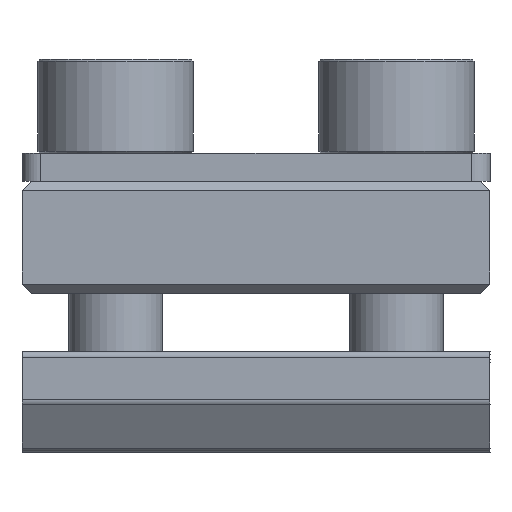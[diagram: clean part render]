
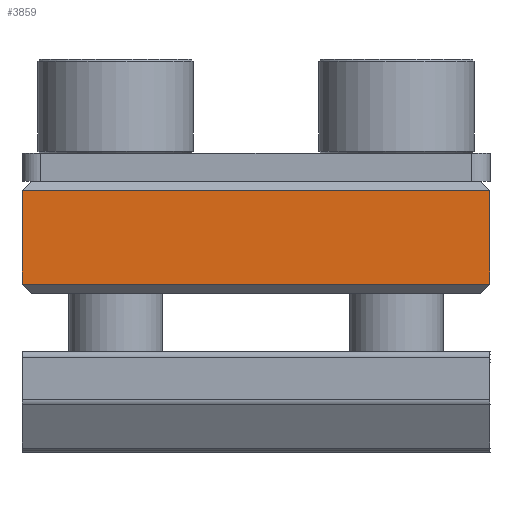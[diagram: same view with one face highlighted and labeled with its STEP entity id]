
A CAD part, front view. The second image highlights one B-rep face of the part: STEP entity #3859.
In plain terms, the highlighted planar face has unit normal (0, -1, 0).
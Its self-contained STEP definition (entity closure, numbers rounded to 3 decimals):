
#5 = CARTESIAN_POINT ( 'NONE',  ( -12.5, -37.5, 6. ) ) ;
#58 = VERTEX_POINT ( 'NONE', #434 ) ;
#146 = LINE ( 'NONE', #1970, #321 ) ;
#148 = CARTESIAN_POINT ( 'NONE',  ( 12.5, -37.5, 5.5 ) ) ;
#299 = DIRECTION ( 'NONE',  ( 1., 0., 0. ) ) ;
#321 = VECTOR ( 'NONE', #2667, 1000. ) ;
#434 = CARTESIAN_POINT ( 'NONE',  ( -12.5, -37.5, 5.5 ) ) ;
#478 = ORIENTED_EDGE ( 'NONE', *, *, #2975, .T. ) ;
#598 = DIRECTION ( 'NONE',  ( 0., -1., 0. ) ) ;
#680 = DIRECTION ( 'NONE',  ( 0., 0., -1. ) ) ;
#906 = AXIS2_PLACEMENT_3D ( 'NONE', #2119, #598, #1700 ) ;
#1038 = ORIENTED_EDGE ( 'NONE', *, *, #1126, .T. ) ;
#1126 = EDGE_CURVE ( 'NONE', #58, #1785, #1701, .T. ) ;
#1210 = EDGE_LOOP ( 'NONE', ( #1038, #478, #3431, #3080 ) ) ;
#1249 = LINE ( 'NONE', #3925, #1565 ) ;
#1427 = VECTOR ( 'NONE', #680, 1000. ) ;
#1565 = VECTOR ( 'NONE', #299, 1000. ) ;
#1644 = LINE ( 'NONE', #3688, #4391 ) ;
#1700 = DIRECTION ( 'NONE',  ( 1., 0., 0. ) ) ;
#1701 = LINE ( 'NONE', #5, #1427 ) ;
#1766 = EDGE_CURVE ( 'NONE', #4559, #58, #1644, .T. ) ;
#1785 = VERTEX_POINT ( 'NONE', #4433 ) ;
#1970 = CARTESIAN_POINT ( 'NONE',  ( 12.5, -37.5, 6. ) ) ;
#2119 = CARTESIAN_POINT ( 'NONE',  ( 0., -37.5, 6. ) ) ;
#2402 = VERTEX_POINT ( 'NONE', #4062 ) ;
#2667 = DIRECTION ( 'NONE',  ( 0., 0., -1. ) ) ;
#2975 = EDGE_CURVE ( 'NONE', #1785, #2402, #1249, .T. ) ;
#3080 = ORIENTED_EDGE ( 'NONE', *, *, #1766, .T. ) ;
#3431 = ORIENTED_EDGE ( 'NONE', *, *, #4280, .F. ) ;
#3663 = DIRECTION ( 'NONE',  ( -1., 0., 0. ) ) ;
#3688 = CARTESIAN_POINT ( 'NONE',  ( 0., -37.5, 5.5 ) ) ;
#3790 = FACE_OUTER_BOUND ( 'NONE', #1210, .T. ) ;
#3859 = ADVANCED_FACE ( 'NONE', ( #3790 ), #4577, .T. ) ;
#3925 = CARTESIAN_POINT ( 'NONE',  ( 12.5, -37.5, 0.5 ) ) ;
#4062 = CARTESIAN_POINT ( 'NONE',  ( 12.5, -37.5, 0.5 ) ) ;
#4280 = EDGE_CURVE ( 'NONE', #4559, #2402, #146, .T. ) ;
#4391 = VECTOR ( 'NONE', #3663, 1000. ) ;
#4433 = CARTESIAN_POINT ( 'NONE',  ( -12.5, -37.5, 0.5 ) ) ;
#4559 = VERTEX_POINT ( 'NONE', #148 ) ;
#4577 = PLANE ( 'NONE',  #906 ) ;
